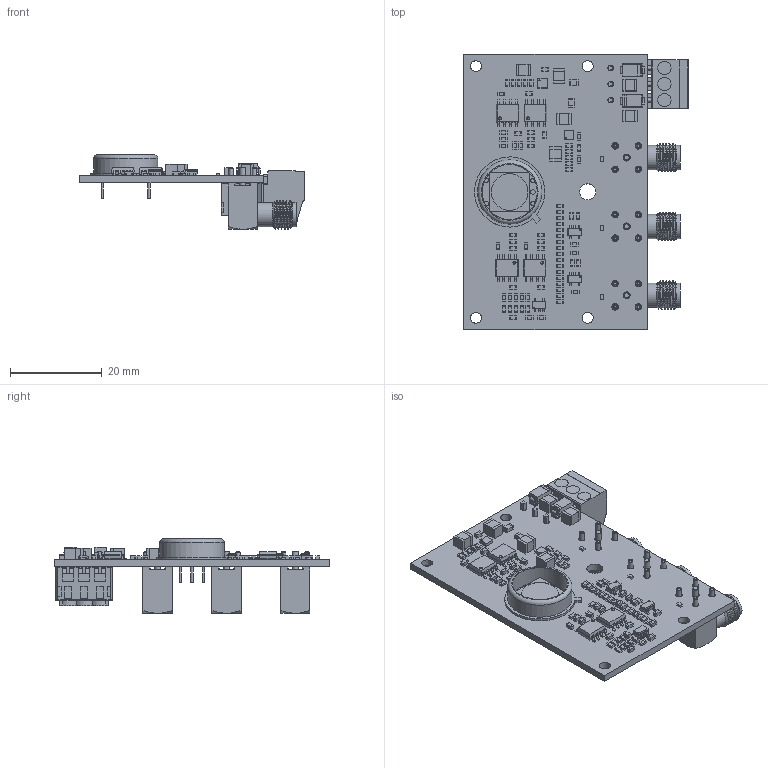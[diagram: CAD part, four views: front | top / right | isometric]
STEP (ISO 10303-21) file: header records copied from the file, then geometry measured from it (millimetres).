
FILE_DESCRIPTION(('Open CASCADE Model'),'2;1');
FILE_NAME('Open CASCADE Shape Model','2022-04-19T17:59:23',('Author'),( 'Open CASCADE'),'Open CASCADE STEP processor 6.8','Open CASCADE 6.8' ,'Unknown');
FILE_SCHEMA(('AUTOMOTIVE_DESIGN { 1 0 10303 214 1 1 1 1 }'));
Length unit declared in the file: millimetre
Products named in the file (164): PD4Q
Assembly tree (432 placements, depth 4):
  PD4Q
    PD4Q
      PD4Q
    PD4Q
      PD4Q
      PD4Q
      PD4Q
      PD4Q
      PD4Q
      PD4Q
      PD4Q
      PD4Q
      PD4Q
      PD4Q
      PD4Q
    PD4Q
      PD4Q
      PD4Q
      PD4Q
    PD4Q
      PD4Q
      PD4Q
      PD4Q
    PD4Q
      PD4Q
      PD4Q
      PD4Q
    PD4Q
      PD4Q
      PD4Q
      PD4Q
    PD4Q
      PD4Q
      PD4Q
      PD4Q
    PD4Q
      PD4Q
      PD4Q
      PD4Q
    PD4Q
      PD4Q
      PD4Q
      PD4Q
    PD4Q
      PD4Q
      PD4Q
      PD4Q
    PD4Q
      PD4Q
      PD4Q
      PD4Q
    PD4Q
      PD4Q
      PD4Q
      PD4Q
    PD4Q
      PD4Q
      PD4Q
      PD4Q
    PD4Q
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Bounding box: 48.9 x 60 x 16.21 mm (x, y, z)
Volume: 7598.7 mm3; surface area: 12866.6 mm2
Topology: 329 solids, 329 shells, 3334 faces, 7614 edges, 4998 vertices
Faces by surface type: plane 2730, cylinder 493, cone 60, sphere 26, torus 19, bspline 6
Full cylindrical faces by diameter (mm): 0.25 x7, 0.48 x6, 0.65 x6, 0.97 x3, 1 x18, 1.2 x6, 1.27 x3, 1.28 x3, 1.32 x6, 1.4 x12, 1.5 x3, 2 x3, 2.4 x4, 2.8 x3, 2.9 x6, 3.5 x1, 3.98 x3, 4.06 x9, 4.6 x3, 5.3 x6, 7.98 x1, 12 x1, 14 x1
Entity records: 41151 total; most frequent: CARTESIAN_POINT 7807, DIRECTION 6249, ORIENTED_EDGE 5394, EDGE_CURVE 2697, AXIS2_PLACEMENT_3D 2201, LINE 1847, VECTOR 1847, VERTEX_POINT 1746
